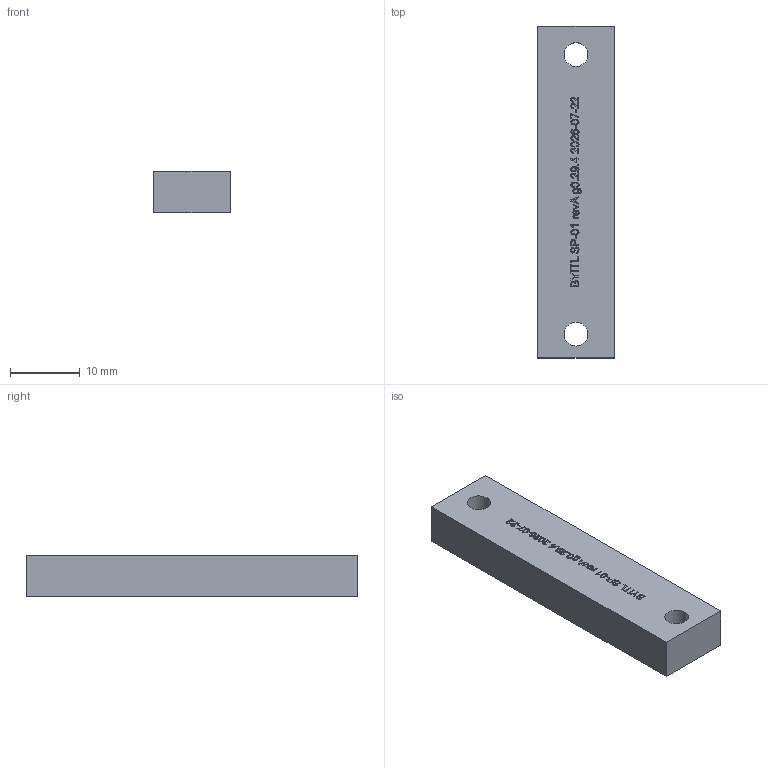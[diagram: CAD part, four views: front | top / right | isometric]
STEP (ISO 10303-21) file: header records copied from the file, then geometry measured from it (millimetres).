
FILE_DESCRIPTION(('Open CASCADE Model'),'2;1');
FILE_NAME('Open CASCADE Shape Model','2026-07-25T17:37:03',('Author'),( 'Open CASCADE'),'Open CASCADE STEP processor 7.9','build123d', 'Unknown');
FILE_SCHEMA(('AUTOMOTIVE_DESIGN { 1 0 10303 214 1 1 1 1 }'));
Length unit declared in the file: millimetre
Products named in the file (1): COMPOUND
Bounding box: 11 x 47.5 x 6 mm (x, y, z)
Volume: 3022.5 mm3; surface area: 1893 mm2
Topology: 1 solids, 1 shells, 554 faces, 1524 edges, 1016 vertices
Faces by surface type: extrusion 359, plane 193, cylinder 2
Full cylindrical faces by diameter (mm): 3.4 x2
Entity records: 41931 total; most frequent: CARTESIAN_POINT 15174, DIRECTION 3246, ORIENTED_EDGE 3048, PCURVE 3048, DEFINITIONAL_REPRESENTATION 3048, VECTOR 2842, LINE 2483, B_SPLINE_CURVE_WITH_KNOTS 2440
